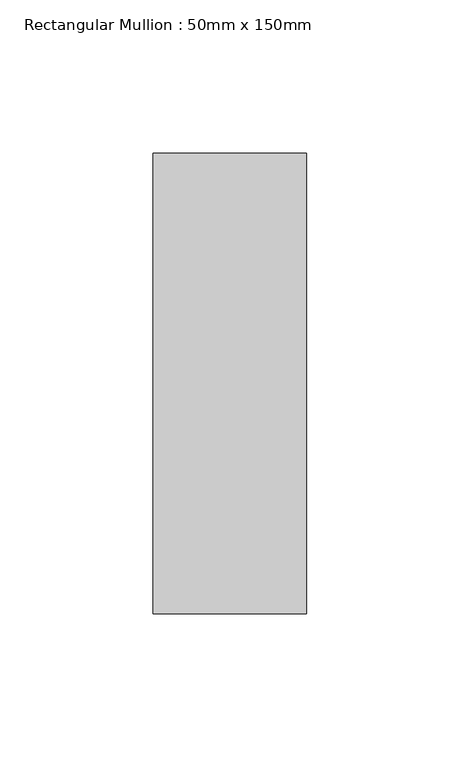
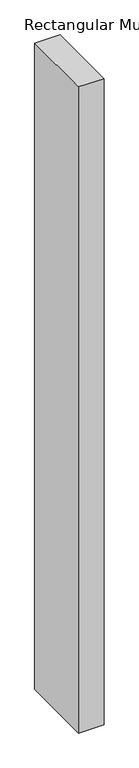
"""IFC4 building model written with IfcOpenShell, lengths in millimetres: member geometry, Rectangular Mullion : 50mm x 150mm."""

from ifc_helpers import new_model, si_unit, frame, origin, place, context, project, spatial, polyline, outline, extrude, source, transform, mapped, element, save


def rectangular_mullion_50mm_x_150mm_39b046be(model_context):
    return source(origin(), model_context, "Body", "SweptSolid", [
        extrude(outline(polyline([(25.0, 75.0), (25.0, -75.0), (-25.0, -75.0), (-25.0, 75.0), (25.0, 75.0)])), frame((0.0, 0.0, -1346.6199622), z_axis=(0.0, 0.0, 1.0), x_axis=(1.0, 0.0, 0.0)), (0.0, 0.0, 1.0), 1346.6199622),
    ])


if __name__ == "__main__":
    model = new_model("IFC4")
    model_context = context("Model", 3, world=origin())
    ifc_project = project(units=[si_unit("LENGTHUNIT", "METRE", prefix="MILLI")], contexts=[model_context])
    site = spatial("IfcSite", under=ifc_project)
    building = spatial("IfcBuilding", under=site)
    placement = place(None, origin())
    rectangular_mullion_50mm_x_150mm_shape = rectangular_mullion_50mm_x_150mm_39b046be(model_context)
    element("IfcMember", 1, ObjectType="Rectangular Mullion : 50mm x 150mm", at=placement, inside=building, context=model_context, shape_type="MappedRepresentation", body=[
        mapped(rectangular_mullion_50mm_x_150mm_shape, transform((0.0, 0.0, 0.0), x_axis=(1.0, 0.0, 0.0), y_axis=(0.0, 1.0, 0.0), z_axis=(0.0, 0.0, 1.0))),
    ])
    save(model, "model.ifc")
